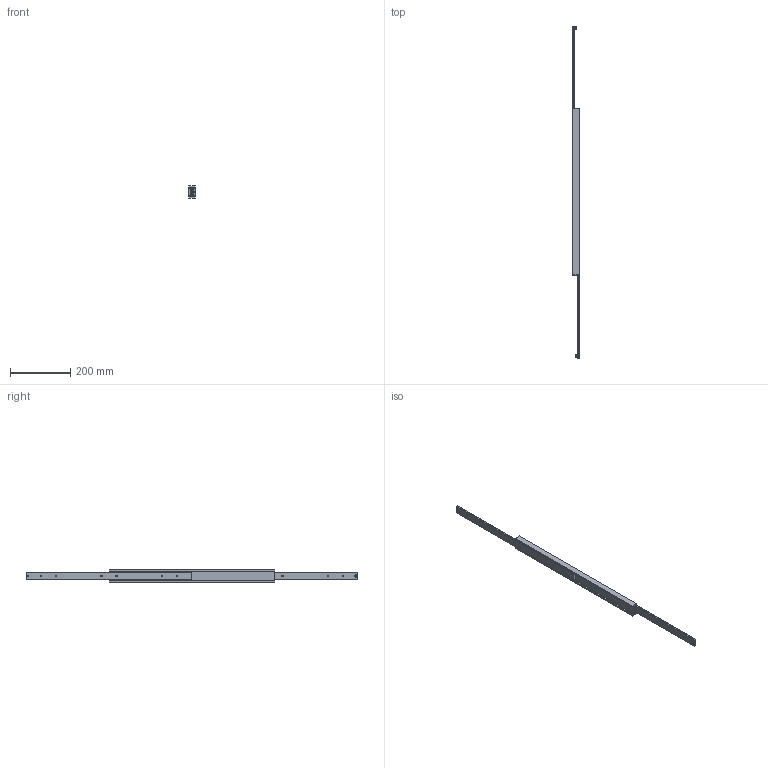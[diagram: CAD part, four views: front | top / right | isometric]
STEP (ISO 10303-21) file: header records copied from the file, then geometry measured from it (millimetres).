
FILE_DESCRIPTION(/* description */ (''),/* implementation_level */ '2;1');
FILE_NAME(/* name */ 'C:\Users\Miluxor\Desktop\Miluxor Schienen\Original Zeichnungen\Zeichnungen Schienen Komplett\MX-DTP40\MX-DTP40.055\MX-DTP40.055_ausgefahren.stp',/* time_stamp */ '2020-05-11T13:40:22+02:00',/* author */ ('Miluxor'),/* organization */ (''),/* preprocessor_version */ 'ST-DEVELOPER v16.13',/* originating_system */ 'AutoCAD Mechanical',/* authorisation */ '');
FILE_SCHEMA (('AUTOMOTIVE_DESIGN { 1 0 10303 214 3 1 1 }'));
Length unit declared in the file: millimetre
Products named in the file (1): Product
Bounding box: 24 x 1100 x 40 mm (x, y, z)
Volume: 412961.4 mm3; surface area: 200420 mm2
Topology: 53 solids, 53 shells, 320 faces, 810 edges, 536 vertices
Faces by surface type: plane 218, cylinder 56, sphere 32, bspline 8, torus 6
Full cylindrical faces by diameter (mm): 5 x12, 6 x32, 10 x2
Entity records: 14749 total; most frequent: CARTESIAN_POINT 7235, DIRECTION 1460, ORIENTED_EDGE 1384, EDGE_CURVE 692, VERTEX_POINT 534, LINE 526, VECTOR 526, AXIS2_PLACEMENT_3D 467
